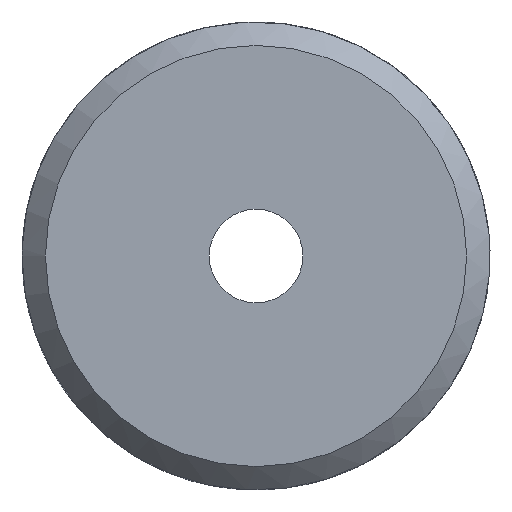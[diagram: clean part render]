
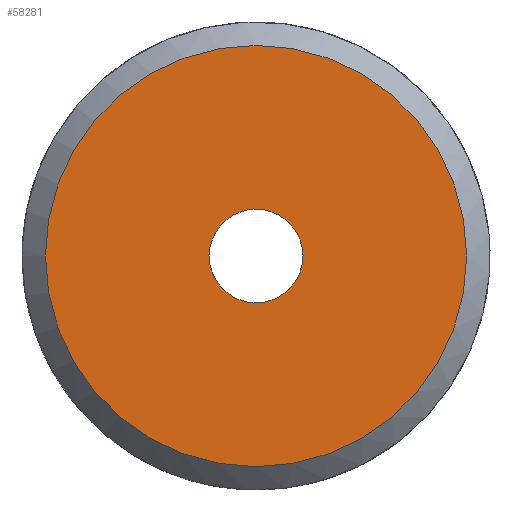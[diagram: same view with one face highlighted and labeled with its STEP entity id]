
A CAD part, left-side view. The second image highlights one B-rep face of the part: STEP entity #58281.
In plain terms, the highlighted planar face has unit normal (-1, 0, 0).
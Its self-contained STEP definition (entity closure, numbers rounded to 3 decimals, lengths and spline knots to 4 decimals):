
#17140=PLANE('',#57010);
#18485=ORIENTED_EDGE('',*,*,#23541,.F.);
#18486=ORIENTED_EDGE('',*,*,#23542,.F.);
#21853=CIRCLE('',#57009,4.5);
#21854=CIRCLE('',#57011,1.);
#22414=VERTEX_POINT('',#28844);
#22415=VERTEX_POINT('',#28847);
#23541=EDGE_CURVE('',#22414,#22414,#21853,.T.);
#23542=EDGE_CURVE('',#22415,#22415,#21854,.T.);
#25218=EDGE_LOOP('',(#18485));
#25219=EDGE_LOOP('',(#18486));
#25792=FACE_BOUND('',#25218,.T.);
#25793=FACE_BOUND('',#25219,.T.);
#26378=DIRECTION('',(1.,0.,0.));
#26379=DIRECTION('',(0.,0.,-4.5));
#26380=DIRECTION('',(-1.,0.,0.));
#26381=DIRECTION('',(0.,1.,0.));
#26382=DIRECTION('',(-1.,0.,0.));
#26383=DIRECTION('',(0.,0.,1.));
#28844=CARTESIAN_POINT('',(77.4606,211.3745,-4.5));
#28845=CARTESIAN_POINT('',(77.4606,211.3745,0.));
#28846=CARTESIAN_POINT('',(77.4606,211.3745,-4.5));
#28847=CARTESIAN_POINT('',(77.4606,211.3745,1.));
#28848=CARTESIAN_POINT('',(77.4606,211.3745,0.));
#57009=AXIS2_PLACEMENT_3D('',#28845,#26378,#26379);
#57010=AXIS2_PLACEMENT_3D('',#28846,#26380,#26381);
#57011=AXIS2_PLACEMENT_3D('',#28848,#26382,#26383);
#58281=ADVANCED_FACE('',(#25792,#25793),#17140,.T.);
